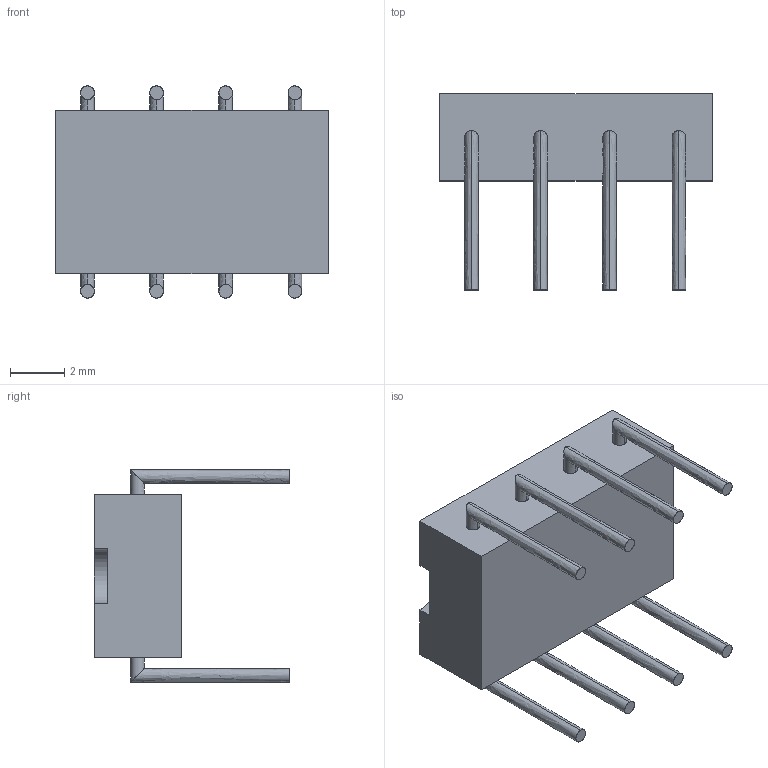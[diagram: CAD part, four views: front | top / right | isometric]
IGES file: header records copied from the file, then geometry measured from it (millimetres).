
Start section: SolidWorks IGES file using analytic representation for surfaces
Global section: file name: C:\Users\AndreBernot\Downloads\K-RACER-L_3D_SW\K-RACER-L_3D_SW\CI 8 pattes.IGS; native system: SolidWorks 2015; preprocessor: SolidWorks 2015; author: AndreBernot; date: 170922.151057; units: millimetre
Bounding box: 10 x 7.2 x 7.8 mm (x, y, z)
Surface area: 301.5 mm2 (no closed solid volume)
Topology: 0 solids, 0 shells, 48 faces, 674 edges, 674 vertices
Faces by surface type: revolution 33, bspline 15
